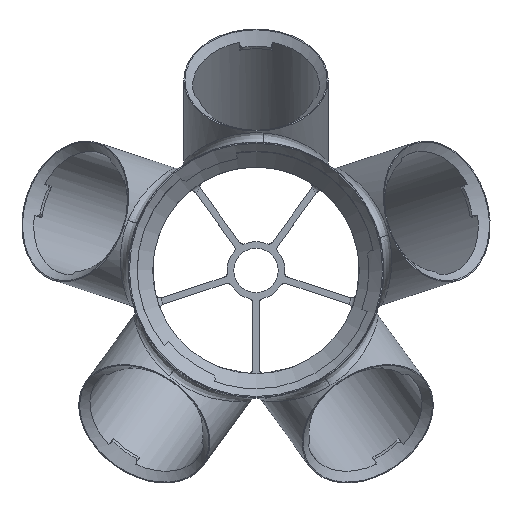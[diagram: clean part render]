
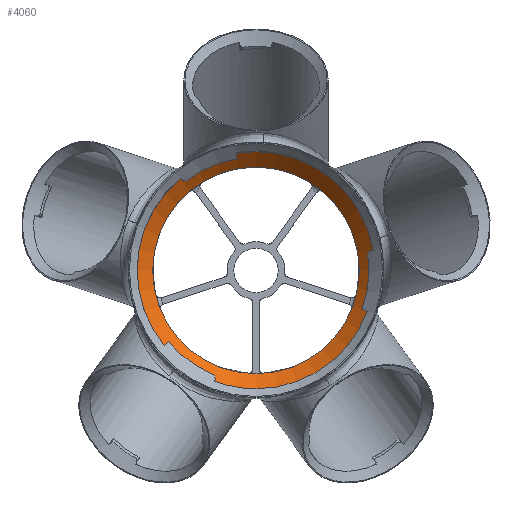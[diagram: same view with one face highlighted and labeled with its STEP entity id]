
A CAD part, top view. The second image highlights one B-rep face of the part: STEP entity #4060.
In plain terms, the highlighted conical face has half-angle 45 degrees and reference radius 53.5 mm.
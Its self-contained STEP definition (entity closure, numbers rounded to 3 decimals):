
#53=CONICAL_SURFACE('',#4397,53.5,0.785);
#308=LINE('',#8398,#615);
#615=VECTOR('',#5128,53.5);
#931=FACE_OUTER_BOUND('',#1155,.T.);
#1155=EDGE_LOOP('',(#3160,#3161,#3162,#3163,#3164,#3165));
#1460=CIRCLE('',#4264,46.5);
#1469=CIRCLE('',#4273,46.5);
#1543=CIRCLE('',#4398,53.5);
#1544=CIRCLE('',#4399,53.5);
#1699=VERTEX_POINT('',#5955);
#1700=VERTEX_POINT('',#5956);
#1856=VERTEX_POINT('',#8397);
#1857=VERTEX_POINT('',#8399);
#2138=EDGE_CURVE('',#1699,#1700,#1460,.T.);
#2156=EDGE_CURVE('',#1700,#1699,#1469,.T.);
#2356=EDGE_CURVE('',#1700,#1856,#308,.T.);
#2357=EDGE_CURVE('',#1857,#1856,#1543,.T.);
#2358=EDGE_CURVE('',#1856,#1857,#1544,.T.);
#3160=ORIENTED_EDGE('',*,*,#2138,.T.);
#3161=ORIENTED_EDGE('',*,*,#2356,.T.);
#3162=ORIENTED_EDGE('',*,*,#2357,.F.);
#3163=ORIENTED_EDGE('',*,*,#2358,.F.);
#3164=ORIENTED_EDGE('',*,*,#2356,.F.);
#3165=ORIENTED_EDGE('',*,*,#2156,.T.);
#4060=ADVANCED_FACE('',(#931),#53,.F.);
#4264=AXIS2_PLACEMENT_3D('',#5957,#4763,#4764);
#4273=AXIS2_PLACEMENT_3D('',#5989,#4790,#4791);
#4397=AXIS2_PLACEMENT_3D('',#8396,#5126,#5127);
#4398=AXIS2_PLACEMENT_3D('',#8400,#5129,#5130);
#4399=AXIS2_PLACEMENT_3D('',#8401,#5131,#5132);
#4763=DIRECTION('center_axis',(0.,0.,-1.));
#4764=DIRECTION('ref_axis',(0.,1.,0.));
#4790=DIRECTION('center_axis',(0.,0.,-1.));
#4791=DIRECTION('ref_axis',(0.,1.,0.));
#5126=DIRECTION('center_axis',(0.,0.,1.));
#5127=DIRECTION('ref_axis',(0.,-1.,0.));
#5128=DIRECTION('',(0.,0.707,0.707));
#5129=DIRECTION('center_axis',(0.,0.,-1.));
#5130=DIRECTION('ref_axis',(0.,1.,0.));
#5131=DIRECTION('center_axis',(0.,0.,-1.));
#5132=DIRECTION('ref_axis',(0.,1.,0.));
#5955=CARTESIAN_POINT('',(0.,-46.5,11.));
#5956=CARTESIAN_POINT('',(0.,46.5,11.));
#5957=CARTESIAN_POINT('Origin',(0.,0.,11.));
#5989=CARTESIAN_POINT('Origin',(0.,0.,11.));
#8396=CARTESIAN_POINT('Origin',(0.,0.,18.));
#8397=CARTESIAN_POINT('',(0.,53.5,18.));
#8398=CARTESIAN_POINT('',(0.,53.5,18.));
#8399=CARTESIAN_POINT('',(0.,-53.5,18.));
#8400=CARTESIAN_POINT('Origin',(0.,0.,18.));
#8401=CARTESIAN_POINT('Origin',(0.,0.,18.));
